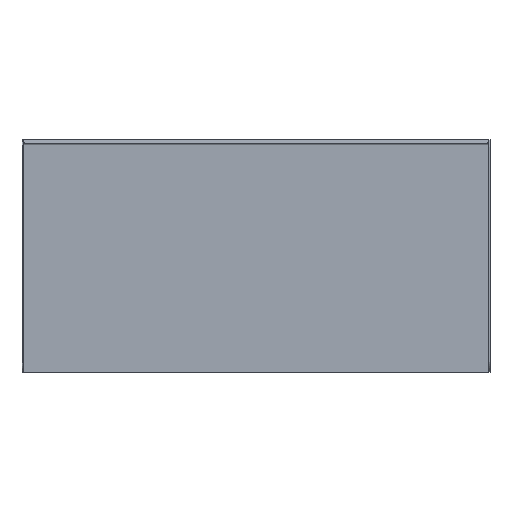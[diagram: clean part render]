
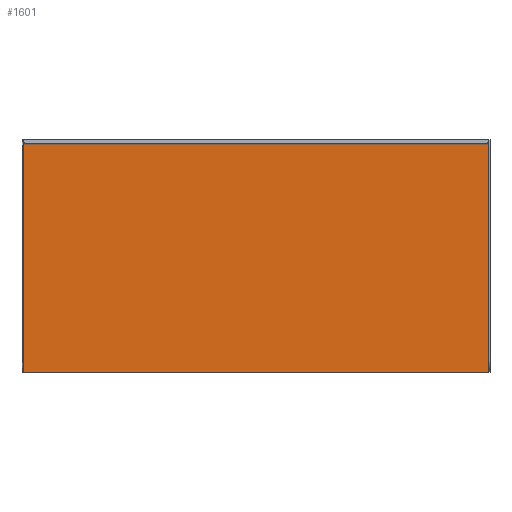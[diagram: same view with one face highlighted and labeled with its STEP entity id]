
A CAD part, front view. The second image highlights one B-rep face of the part: STEP entity #1601.
In plain terms, the highlighted planar face has unit normal (0, -1, 0).
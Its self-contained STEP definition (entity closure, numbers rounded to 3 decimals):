
#41 = VERTEX_POINT ( 'NONE', #1387 ) ;
#107 = ORIENTED_EDGE ( 'NONE', *, *, #254, .F. ) ;
#124 = VERTEX_POINT ( 'NONE', #739 ) ;
#254 = EDGE_CURVE ( 'NONE', #41, #1683, #1434, .T. ) ;
#272 = DIRECTION ( 'NONE',  ( 0., 0., -1. ) ) ;
#291 = DIRECTION ( 'NONE',  ( 0., 0., 1. ) ) ;
#314 = CARTESIAN_POINT ( 'NONE',  ( -497., -15., -247. ) ) ;
#336 = AXIS2_PLACEMENT_3D ( 'NONE', #1582, #905, #272 ) ;
#407 = LINE ( 'NONE', #1442, #1299 ) ;
#551 = ORIENTED_EDGE ( 'NONE', *, *, #1594, .F. ) ;
#576 = EDGE_CURVE ( 'NONE', #1343, #41, #1194, .T. ) ;
#583 = ORIENTED_EDGE ( 'NONE', *, *, #576, .F. ) ;
#632 = DIRECTION ( 'NONE',  ( -1., 0., 0. ) ) ;
#684 = EDGE_LOOP ( 'NONE', ( #551, #107, #583, #874 ) ) ;
#739 = CARTESIAN_POINT ( 'NONE',  ( 497., -15., -247. ) ) ;
#766 = CARTESIAN_POINT ( 'NONE',  ( -497., -15., 247. ) ) ;
#874 = ORIENTED_EDGE ( 'NONE', *, *, #1405, .F. ) ;
#888 = DIRECTION ( 'NONE',  ( 1., 0., 0. ) ) ;
#905 = DIRECTION ( 'NONE',  ( 0., -1., 0. ) ) ;
#915 = VECTOR ( 'NONE', #291, 1000. ) ;
#949 = CARTESIAN_POINT ( 'NONE',  ( -497., -15., 247. ) ) ;
#1046 = CARTESIAN_POINT ( 'NONE',  ( 497., -15., 247. ) ) ;
#1194 = LINE ( 'NONE', #949, #915 ) ;
#1299 = VECTOR ( 'NONE', #1694, 1000. ) ;
#1303 = PLANE ( 'NONE',  #336 ) ;
#1343 = VERTEX_POINT ( 'NONE', #314 ) ;
#1387 = CARTESIAN_POINT ( 'NONE',  ( -497., -15., 247. ) ) ;
#1395 = LINE ( 'NONE', #1515, #1658 ) ;
#1405 = EDGE_CURVE ( 'NONE', #124, #1343, #1395, .T. ) ;
#1418 = VECTOR ( 'NONE', #888, 1000. ) ;
#1434 = LINE ( 'NONE', #766, #1418 ) ;
#1442 = CARTESIAN_POINT ( 'NONE',  ( 497., -15., 247. ) ) ;
#1515 = CARTESIAN_POINT ( 'NONE',  ( -497., -15., -247. ) ) ;
#1582 = CARTESIAN_POINT ( 'NONE',  ( 0., -15., 0. ) ) ;
#1594 = EDGE_CURVE ( 'NONE', #1683, #124, #407, .T. ) ;
#1601 = ADVANCED_FACE ( 'NONE', ( #1705 ), #1303, .T. ) ;
#1658 = VECTOR ( 'NONE', #632, 1000. ) ;
#1683 = VERTEX_POINT ( 'NONE', #1046 ) ;
#1694 = DIRECTION ( 'NONE',  ( 0., 0., -1. ) ) ;
#1705 = FACE_OUTER_BOUND ( 'NONE', #684, .T. ) ;
